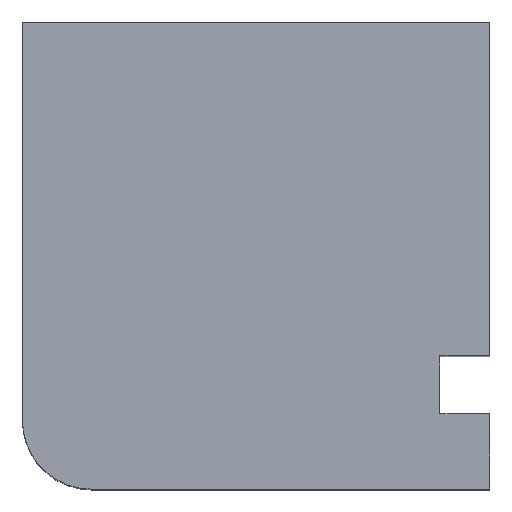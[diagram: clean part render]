
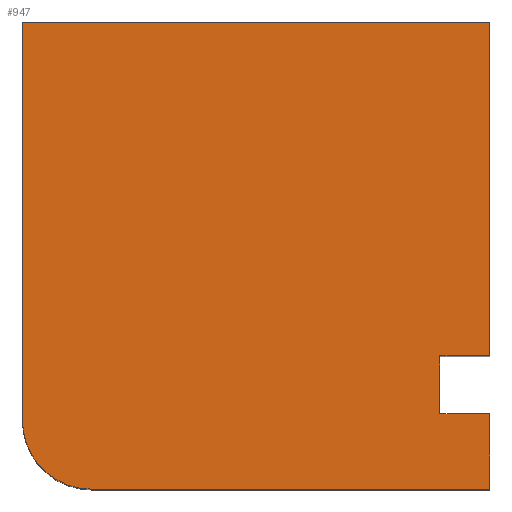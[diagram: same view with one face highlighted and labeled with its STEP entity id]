
A CAD part, top view. The second image highlights one B-rep face of the part: STEP entity #947.
In plain terms, the highlighted planar face has unit normal (0, 0, 1).
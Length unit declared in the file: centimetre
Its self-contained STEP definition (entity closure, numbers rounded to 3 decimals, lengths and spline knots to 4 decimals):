
#5 = EDGE_CURVE ( 'NONE', #189, #398, #1157, .T. ) ;
#6 = VERTEX_POINT ( 'NONE', #241 ) ;
#30 = EDGE_CURVE ( 'NONE', #323, #448, #307, .T. ) ;
#32 = DIRECTION ( 'NONE',  ( -1., 0., 0. ) ) ;
#34 = LINE ( 'NONE', #691, #263 ) ;
#78 = CARTESIAN_POINT ( 'NONE',  ( 0., 147.5113, 1000. ) ) ;
#100 = CARTESIAN_POINT ( 'NONE',  ( 893.6367, 161.4263, 1000. ) ) ;
#101 = VECTOR ( 'NONE', #1165, 100. ) ;
#117 = VECTOR ( 'NONE', #1004, 100. ) ;
#128 = LINE ( 'NONE', #959, #101 ) ;
#137 = EDGE_CURVE ( 'NONE', #507, #679, #901, .T. ) ;
#177 = CARTESIAN_POINT ( 'NONE',  ( 1000., 1000., 1000. ) ) ;
#181 = CARTESIAN_POINT ( 'NONE',  ( 893.6367, 285.3867, 1000. ) ) ;
#184 = VECTOR ( 'NONE', #385, 100. ) ;
#189 = VERTEX_POINT ( 'NONE', #78 ) ;
#241 = CARTESIAN_POINT ( 'NONE',  ( 0., 1000., 1000. ) ) ;
#261 = ORIENTED_EDGE ( 'NONE', *, *, #318, .T. ) ;
#263 = VECTOR ( 'NONE', #502, 100. ) ;
#293 = CARTESIAN_POINT ( 'NONE',  ( 0., 0., 1000. ) ) ;
#296 = ORIENTED_EDGE ( 'NONE', *, *, #30, .T. ) ;
#307 = LINE ( 'NONE', #595, #117 ) ;
#318 = EDGE_CURVE ( 'NONE', #871, #6, #1091, .T. ) ;
#323 = VERTEX_POINT ( 'NONE', #598 ) ;
#376 = DIRECTION ( 'NONE',  ( 0., 1., 0. ) ) ;
#377 = EDGE_CURVE ( 'NONE', #837, #507, #128, .T. ) ;
#385 = DIRECTION ( 'NONE',  ( 0., -1., 0. ) ) ;
#388 = EDGE_CURVE ( 'NONE', #398, #323, #34, .T. ) ;
#398 = VERTEX_POINT ( 'NONE', #536 ) ;
#400 = DIRECTION ( 'NONE',  ( 1., 0., 0. ) ) ;
#402 = ORIENTED_EDGE ( 'NONE', *, *, #865, .T. ) ;
#420 = DIRECTION ( 'NONE',  ( 0., 0., 1. ) ) ;
#425 = EDGE_LOOP ( 'NONE', ( #559, #890, #478, #402, #261, #1153, #951, #663, #296 ) ) ;
#448 = VERTEX_POINT ( 'NONE', #731 ) ;
#478 = ORIENTED_EDGE ( 'NONE', *, *, #137, .T. ) ;
#499 = DIRECTION ( 'NONE',  ( 0., 0., 1. ) ) ;
#502 = DIRECTION ( 'NONE',  ( 1., 0., 0. ) ) ;
#507 = VERTEX_POINT ( 'NONE', #181 ) ;
#527 = VECTOR ( 'NONE', #585, 100. ) ;
#536 = CARTESIAN_POINT ( 'NONE',  ( 147.5113, 0., 1000. ) ) ;
#559 = ORIENTED_EDGE ( 'NONE', *, *, #779, .T. ) ;
#567 = VECTOR ( 'NONE', #726, 100. ) ;
#568 = FACE_OUTER_BOUND ( 'NONE', #425, .T. ) ;
#585 = DIRECTION ( 'NONE',  ( -1., 0., 0. ) ) ;
#590 = CARTESIAN_POINT ( 'NONE',  ( 893.6367, 161.4263, 1000. ) ) ;
#595 = CARTESIAN_POINT ( 'NONE',  ( 1000., 1000., 1000. ) ) ;
#598 = CARTESIAN_POINT ( 'NONE',  ( 1000., 0., 1000. ) ) ;
#647 = EDGE_CURVE ( 'NONE', #6, #189, #649, .T. ) ;
#649 = LINE ( 'NONE', #661, #184 ) ;
#661 = CARTESIAN_POINT ( 'NONE',  ( 0., 1000., 1000. ) ) ;
#663 = ORIENTED_EDGE ( 'NONE', *, *, #388, .T. ) ;
#665 = DIRECTION ( 'NONE',  ( 1., 0., 0. ) ) ;
#679 = VERTEX_POINT ( 'NONE', #940 ) ;
#686 = AXIS2_PLACEMENT_3D ( 'NONE', #293, #499, #665 ) ;
#691 = CARTESIAN_POINT ( 'NONE',  ( 0., 0., 1000. ) ) ;
#726 = DIRECTION ( 'NONE',  ( 1., 0., 0. ) ) ;
#731 = CARTESIAN_POINT ( 'NONE',  ( 1000., 161.4263, 1000. ) ) ;
#779 = EDGE_CURVE ( 'NONE', #448, #837, #870, .T. ) ;
#804 = AXIS2_PLACEMENT_3D ( 'NONE', #863, #420, #400 ) ;
#837 = VERTEX_POINT ( 'NONE', #100 ) ;
#863 = CARTESIAN_POINT ( 'NONE',  ( 147.5113, 147.5113, 1000. ) ) ;
#865 = EDGE_CURVE ( 'NONE', #679, #871, #1014, .T. ) ;
#870 = LINE ( 'NONE', #590, #1203 ) ;
#871 = VERTEX_POINT ( 'NONE', #917 ) ;
#890 = ORIENTED_EDGE ( 'NONE', *, *, #377, .T. ) ;
#901 = LINE ( 'NONE', #1188, #567 ) ;
#917 = CARTESIAN_POINT ( 'NONE',  ( 1000., 1000., 1000. ) ) ;
#940 = CARTESIAN_POINT ( 'NONE',  ( 1000., 285.3867, 1000. ) ) ;
#941 = VECTOR ( 'NONE', #376, 100. ) ;
#947 = ADVANCED_FACE ( 'NONE', ( #568 ), #1063, .T. ) ;
#951 = ORIENTED_EDGE ( 'NONE', *, *, #5, .T. ) ;
#959 = CARTESIAN_POINT ( 'NONE',  ( 893.6367, 161.4263, 1000. ) ) ;
#967 = CARTESIAN_POINT ( 'NONE',  ( 0., 1000., 1000. ) ) ;
#1004 = DIRECTION ( 'NONE',  ( 0., 1., 0. ) ) ;
#1014 = LINE ( 'NONE', #177, #941 ) ;
#1063 = PLANE ( 'NONE',  #686 ) ;
#1091 = LINE ( 'NONE', #967, #527 ) ;
#1153 = ORIENTED_EDGE ( 'NONE', *, *, #647, .T. ) ;
#1157 = CIRCLE ( 'NONE', #804, 147.5113 ) ;
#1165 = DIRECTION ( 'NONE',  ( 0., 1., 0. ) ) ;
#1188 = CARTESIAN_POINT ( 'NONE',  ( 893.6367, 285.3867, 1000. ) ) ;
#1203 = VECTOR ( 'NONE', #32, 100. ) ;
